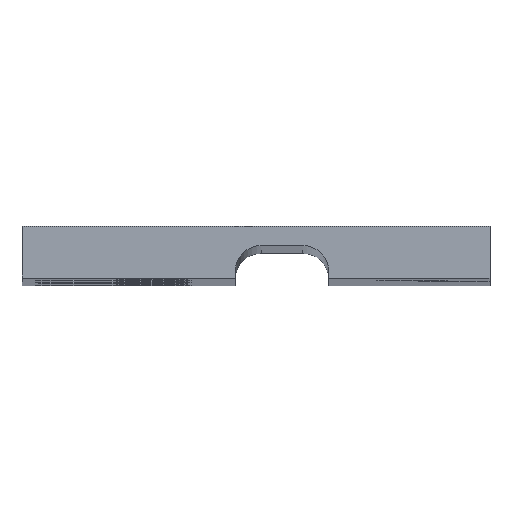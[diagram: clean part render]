
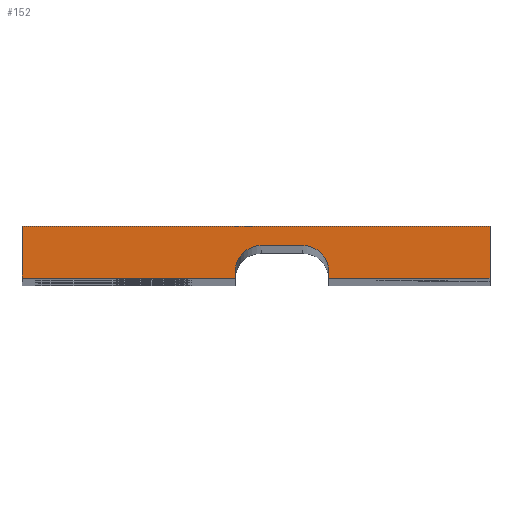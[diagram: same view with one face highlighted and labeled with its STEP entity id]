
A CAD part, top view. The second image highlights one B-rep face of the part: STEP entity #152.
In plain terms, the highlighted planar face has unit normal (0, 0, 1).
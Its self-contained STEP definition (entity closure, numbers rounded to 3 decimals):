
#48=PLANE('',#763);
#152=ADVANCED_FACE('',(#184),#48,.F.);
#184=FACE_OUTER_BOUND('',#259,.T.);
#259=EDGE_LOOP('',(#464,#465,#466,#467,#468,#469,#470,#471,#472,#473));
#276=LINE('',#998,#312);
#281=LINE('',#1030,#317);
#293=LINE('',#1060,#329);
#295=LINE('',#1082,#331);
#298=LINE('',#1088,#334);
#299=LINE('',#1137,#335);
#300=LINE('',#1138,#336);
#301=LINE('',#1140,#337);
#312=VECTOR('',#796,1.);
#317=VECTOR('',#829,1.);
#329=VECTOR('',#853,1.);
#331=VECTOR('',#875,1.);
#334=VECTOR('',#880,1.);
#335=VECTOR('',#953,1.);
#336=VECTOR('',#954,1.);
#337=VECTOR('',#955,1.);
#464=ORIENTED_EDGE('',*,*,#577,.T.);
#465=ORIENTED_EDGE('',*,*,#637,.T.);
#466=ORIENTED_EDGE('',*,*,#609,.T.);
#467=ORIENTED_EDGE('',*,*,#623,.T.);
#468=ORIENTED_EDGE('',*,*,#624,.T.);
#469=ORIENTED_EDGE('',*,*,#620,.T.);
#470=ORIENTED_EDGE('',*,*,#606,.T.);
#471=ORIENTED_EDGE('',*,*,#638,.T.);
#472=ORIENTED_EDGE('',*,*,#639,.T.);
#473=ORIENTED_EDGE('',*,*,#594,.T.);
#511=VERTEX_POINT('',#997);
#512=VERTEX_POINT('',#999);
#525=VERTEX_POINT('',#1031);
#534=VERTEX_POINT('',#1053);
#535=VERTEX_POINT('',#1055);
#536=VERTEX_POINT('',#1059);
#537=VERTEX_POINT('',#1061);
#547=VERTEX_POINT('',#1083);
#548=VERTEX_POINT('',#1087);
#561=VERTEX_POINT('',#1139);
#577=EDGE_CURVE('',#512,#511,#276,.T.);
#594=EDGE_CURVE('',#525,#512,#281,.T.);
#606=EDGE_CURVE('',#535,#534,#663,.T.);
#609=EDGE_CURVE('',#537,#536,#293,.T.);
#620=EDGE_CURVE('',#547,#535,#295,.T.);
#623=EDGE_CURVE('',#536,#548,#298,.T.);
#624=EDGE_CURVE('',#548,#547,#673,.T.);
#637=EDGE_CURVE('',#511,#537,#299,.T.);
#638=EDGE_CURVE('',#534,#561,#300,.T.);
#639=EDGE_CURVE('',#561,#525,#301,.T.);
#663=CIRCLE('',#714,1.);
#673=CIRCLE('',#728,1.);
#714=AXIS2_PLACEMENT_3D('',#1054,#847,#848);
#728=AXIS2_PLACEMENT_3D('',#1090,#883,#884);
#763=AXIS2_PLACEMENT_3D('',#1141,#956,#957);
#796=DIRECTION('',(-1.,0.,0.));
#829=DIRECTION('',(0.,1.,0.));
#847=DIRECTION('',(0.,0.,-1.));
#848=DIRECTION('',(0.,1.,0.));
#853=DIRECTION('',(1.,0.,0.));
#875=DIRECTION('',(1.,0.,0.));
#880=DIRECTION('',(0.,1.,0.));
#883=DIRECTION('',(0.,0.,-1.));
#884=DIRECTION('',(-1.,0.,0.));
#953=DIRECTION('',(0.,-1.,0.));
#954=DIRECTION('',(0.,-1.,0.));
#955=DIRECTION('',(1.,0.,0.));
#956=DIRECTION('',(0.,0.,-1.));
#957=DIRECTION('',(0.,-1.,0.));
#997=CARTESIAN_POINT('',(-43.5,20.1,414.25));
#998=CARTESIAN_POINT('',(-25.5,20.1,414.25));
#999=CARTESIAN_POINT('',(-25.5,20.1,414.25));
#1030=CARTESIAN_POINT('',(-25.5,18.1,414.25));
#1031=CARTESIAN_POINT('',(-25.5,18.1,414.25));
#1053=CARTESIAN_POINT('',(-31.7,18.35,414.25));
#1054=CARTESIAN_POINT('',(-32.7,18.35,414.25));
#1055=CARTESIAN_POINT('',(-32.7,19.35,414.25));
#1059=CARTESIAN_POINT('',(-35.3,18.1,414.25));
#1060=CARTESIAN_POINT('',(-45.5,18.1,414.25));
#1061=CARTESIAN_POINT('',(-43.5,18.1,414.25));
#1082=CARTESIAN_POINT('',(-36.3,19.35,414.25));
#1083=CARTESIAN_POINT('',(-34.3,19.35,414.25));
#1087=CARTESIAN_POINT('',(-35.3,18.35,414.25));
#1088=CARTESIAN_POINT('',(-35.3,18.1,414.25));
#1090=CARTESIAN_POINT('',(-34.3,18.35,414.25));
#1137=CARTESIAN_POINT('',(-43.5,20.1,414.25));
#1138=CARTESIAN_POINT('',(-31.7,18.35,414.25));
#1139=CARTESIAN_POINT('',(-31.7,18.1,414.25));
#1140=CARTESIAN_POINT('',(-33.7,18.1,414.25));
#1141=CARTESIAN_POINT('',(-35.5,19.173,414.25));
